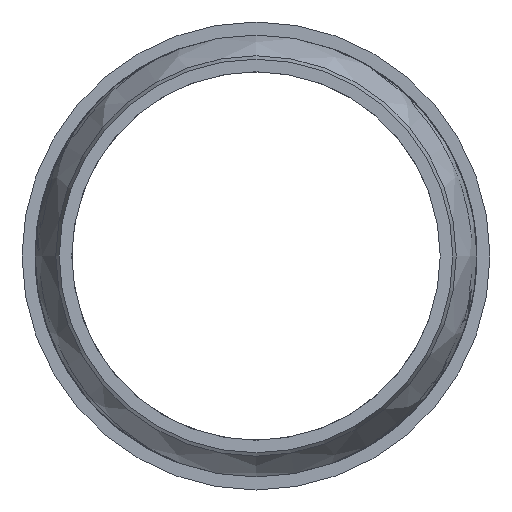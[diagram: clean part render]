
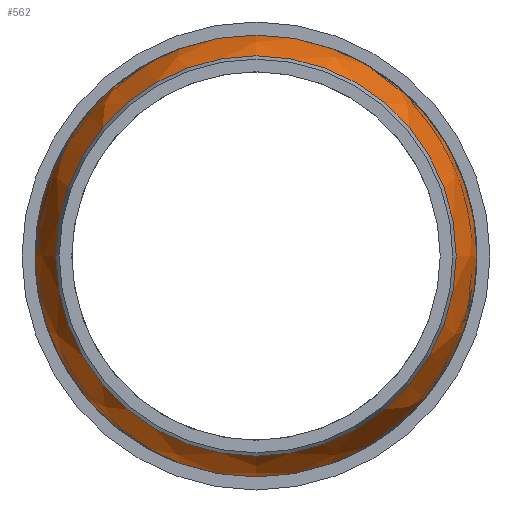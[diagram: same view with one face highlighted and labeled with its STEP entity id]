
A CAD part, left-side view. The second image highlights one B-rep face of the part: STEP entity #562.
In plain terms, the highlighted free-form (B-spline) face has degree [2, 2] with [3, 9] control points.
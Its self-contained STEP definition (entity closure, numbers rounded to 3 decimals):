
#11=(
BOUNDED_CURVE()
B_SPLINE_CURVE(2,(#2313,#2314,#2315),.UNSPECIFIED.,.F.,.F.)
B_SPLINE_CURVE_WITH_KNOTS((3,3),(0.133,0.634),
 .UNSPECIFIED.)
CURVE()
GEOMETRIC_REPRESENTATION_ITEM()
RATIONAL_B_SPLINE_CURVE((1.,0.969,1.))
REPRESENTATION_ITEM('')
);
#12=(
BOUNDED_SURFACE()
B_SPLINE_SURFACE(2,2,((#2286,#2287,#2288,#2289,#2290,#2291,#2292,#2293,
#2294),(#2295,#2296,#2297,#2298,#2299,#2300,#2301,#2302,#2303),(#2304,#2305,
#2306,#2307,#2308,#2309,#2310,#2311,#2312)),.UNSPECIFIED.,.F.,.T.,.F.)
B_SPLINE_SURFACE_WITH_KNOTS((3,3),(3,2,2,2,3),(-0.634,-0.133),
(-3.142,-1.571,0.,1.571,3.142),
 .UNSPECIFIED.)
GEOMETRIC_REPRESENTATION_ITEM()
RATIONAL_B_SPLINE_SURFACE(((1.,0.707,1.,0.707,1.,
0.707,1.,0.707,1.),(0.969,0.685,
0.969,0.685,0.969,0.685,0.969,
0.685,0.969),(1.,0.707,1.,0.707,
1.,0.707,1.,0.707,1.)))
REPRESENTATION_ITEM('')
SURFACE()
);
#147=FACE_OUTER_BOUND('',#207,.T.);
#207=EDGE_LOOP('',(#468,#469,#470,#471,#472,#473,#474));
#233=CIRCLE('',#603,69.1);
#234=CIRCLE('',#604,69.1);
#235=CIRCLE('',#605,69.1);
#241=CIRCLE('',#624,62.6);
#242=CIRCLE('',#625,62.6);
#275=VERTEX_POINT('',#1401);
#284=VERTEX_POINT('',#1947);
#285=VERTEX_POINT('',#1948);
#296=VERTEX_POINT('',#2282);
#297=VERTEX_POINT('',#2283);
#343=EDGE_CURVE('',#284,#285,#233,.T.);
#344=EDGE_CURVE('',#285,#275,#234,.T.);
#345=EDGE_CURVE('',#275,#284,#235,.T.);
#357=EDGE_CURVE('',#296,#297,#241,.T.);
#358=EDGE_CURVE('',#297,#296,#242,.T.);
#359=EDGE_CURVE('',#285,#297,#11,.T.);
#468=ORIENTED_EDGE('',*,*,#343,.F.);
#469=ORIENTED_EDGE('',*,*,#345,.F.);
#470=ORIENTED_EDGE('',*,*,#344,.F.);
#471=ORIENTED_EDGE('',*,*,#359,.T.);
#472=ORIENTED_EDGE('',*,*,#358,.T.);
#473=ORIENTED_EDGE('',*,*,#357,.T.);
#474=ORIENTED_EDGE('',*,*,#359,.F.);
#562=ADVANCED_FACE('',(#147),#12,.F.);
#603=AXIS2_PLACEMENT_3D('',#1949,#697,#698);
#604=AXIS2_PLACEMENT_3D('',#1950,#699,#700);
#605=AXIS2_PLACEMENT_3D('',#1951,#701,#702);
#624=AXIS2_PLACEMENT_3D('',#2284,#739,#740);
#625=AXIS2_PLACEMENT_3D('',#2285,#741,#742);
#697=DIRECTION('center_axis',(1.,0.,0.));
#698=DIRECTION('ref_axis',(0.,0.,
1.));
#699=DIRECTION('center_axis',(1.,0.,0.));
#700=DIRECTION('ref_axis',(0.,0.,
1.));
#701=DIRECTION('center_axis',(1.,0.,0.));
#702=DIRECTION('ref_axis',(0.,0.,
1.));
#739=DIRECTION('center_axis',(1.,0.,0.));
#740=DIRECTION('ref_axis',(0.,0.,
1.));
#741=DIRECTION('center_axis',(1.,0.,0.));
#742=DIRECTION('ref_axis',(0.,0.,
1.));
#1401=CARTESIAN_POINT('',(763.1,69.1,0.));
#1947=CARTESIAN_POINT('',(763.1,-69.1,0.));
#1948=CARTESIAN_POINT('',(763.1,0.,-69.1));
#1949=CARTESIAN_POINT('Origin',(763.1,0.,
0.));
#1950=CARTESIAN_POINT('Origin',(763.1,0.,
0.));
#1951=CARTESIAN_POINT('Origin',(763.1,0.,
0.));
#2282=CARTESIAN_POINT('',(747.,-62.6,0.));
#2283=CARTESIAN_POINT('',(747.,0.,-62.6));
#2284=CARTESIAN_POINT('Origin',(747.,0.,
0.));
#2285=CARTESIAN_POINT('Origin',(747.,0.,
0.));
#2286=CARTESIAN_POINT('Ctrl Pts',(747.,0.,
-62.6));
#2287=CARTESIAN_POINT('Ctrl Pts',(747.,62.6,-62.6));
#2288=CARTESIAN_POINT('Ctrl Pts',(747.,62.6,0.));
#2289=CARTESIAN_POINT('Ctrl Pts',(747.,62.6,62.6));
#2290=CARTESIAN_POINT('Ctrl Pts',(747.,0.,
62.6));
#2291=CARTESIAN_POINT('Ctrl Pts',(747.,-62.6,62.6));
#2292=CARTESIAN_POINT('Ctrl Pts',(747.,-62.6,0.));
#2293=CARTESIAN_POINT('Ctrl Pts',(747.,-62.6,-62.6));
#2294=CARTESIAN_POINT('Ctrl Pts',(747.,0.,
-62.6));
#2295=CARTESIAN_POINT('Ctrl Pts',(754.218,0.,
-67.911));
#2296=CARTESIAN_POINT('Ctrl Pts',(754.218,67.911,-67.911));
#2297=CARTESIAN_POINT('Ctrl Pts',(754.218,67.911,0.));
#2298=CARTESIAN_POINT('Ctrl Pts',(754.218,67.911,67.911));
#2299=CARTESIAN_POINT('Ctrl Pts',(754.218,0.,
67.911));
#2300=CARTESIAN_POINT('Ctrl Pts',(754.218,-67.911,67.911));
#2301=CARTESIAN_POINT('Ctrl Pts',(754.218,-67.911,0.));
#2302=CARTESIAN_POINT('Ctrl Pts',(754.218,-67.911,-67.911));
#2303=CARTESIAN_POINT('Ctrl Pts',(754.218,0.,
-67.911));
#2304=CARTESIAN_POINT('Ctrl Pts',(763.1,0.,
-69.1));
#2305=CARTESIAN_POINT('Ctrl Pts',(763.1,69.1,-69.1));
#2306=CARTESIAN_POINT('Ctrl Pts',(763.1,69.1,0.));
#2307=CARTESIAN_POINT('Ctrl Pts',(763.1,69.1,69.1));
#2308=CARTESIAN_POINT('Ctrl Pts',(763.1,0.,
69.1));
#2309=CARTESIAN_POINT('Ctrl Pts',(763.1,-69.1,69.1));
#2310=CARTESIAN_POINT('Ctrl Pts',(763.1,-69.1,0.));
#2311=CARTESIAN_POINT('Ctrl Pts',(763.1,-69.1,-69.1));
#2312=CARTESIAN_POINT('Ctrl Pts',(763.1,0.,
-69.1));
#2313=CARTESIAN_POINT('Ctrl Pts',(763.1,0.,
-69.1));
#2314=CARTESIAN_POINT('Ctrl Pts',(754.218,0.,
-67.911));
#2315=CARTESIAN_POINT('Ctrl Pts',(747.,0.,
-62.6));
